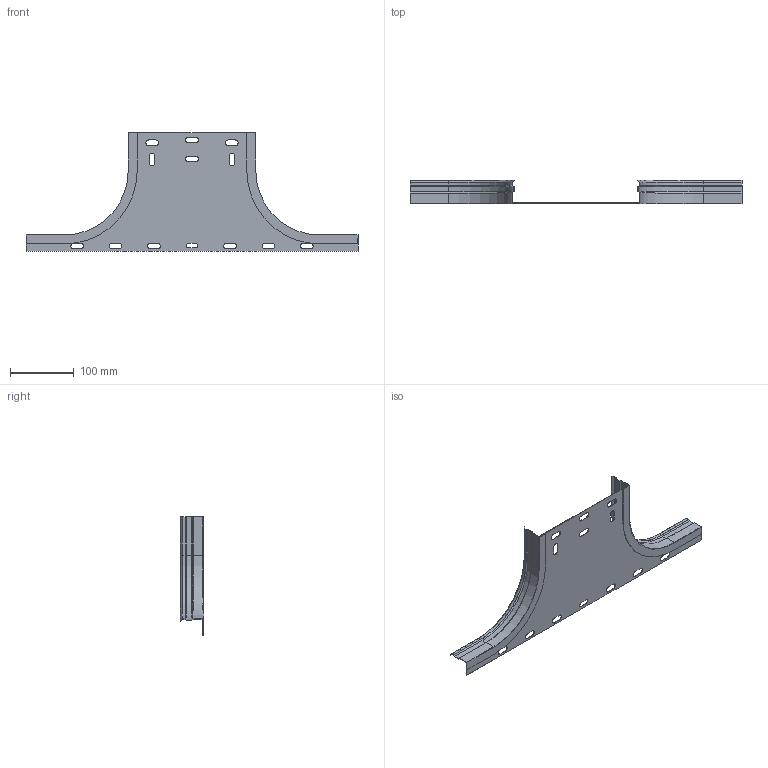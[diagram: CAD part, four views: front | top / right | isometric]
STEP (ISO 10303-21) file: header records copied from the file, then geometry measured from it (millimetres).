
FILE_DESCRIPTION (( 'STEP AP203' ), '1' );
FILE_NAME ('ERE_AS 200x35.step', '2023-07-27T18:49:56', ( '' ), ( '' ), 'SwSTEP 2.0', 'SolidWorks 2022', '' );
FILE_SCHEMA (( 'CONFIG_CONTROL_DESIGN' ));
Length unit declared in the file: millimetre
Products named in the file (3): ERE_LATERAL AS_35; ERE_AS 200x35; ERE_BASE AS_200
Assembly tree (3 placements, depth 2):
  ERE_AS 200x35
    ERE_BASE AS_200
    ERE_LATERAL AS_35  x2
Bounding box: 520 x 37 x 185.5 mm (x, y, z)
Volume: 67134.1 mm3; surface area: 155951.9 mm2
Topology: 3 solids, 3 shells, 158 faces, 408 edges, 256 vertices
Faces by surface type: plane 100, cylinder 44, cone 14
Entity records: 3857 total; most frequent: DIRECTION 612, CARTESIAN_POINT 610, ORIENTED_EDGE 600, EDGE_CURVE 300, VECTOR 224, LINE 224, AXIS2_PLACEMENT_3D 194, VERTEX_POINT 192
